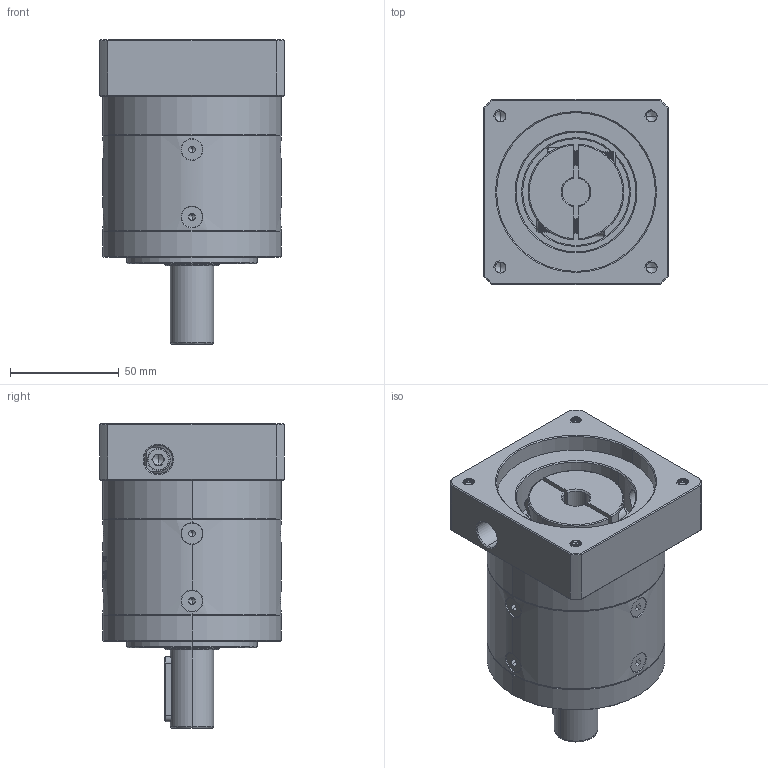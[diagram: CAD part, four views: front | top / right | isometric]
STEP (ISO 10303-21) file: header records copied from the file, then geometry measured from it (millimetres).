
FILE_DESCRIPTION (( 'STEP AP214' ), '1' );
FILE_NAME ('ZE80-D20-L1-12.7-73-69.5X69.5-M6.step', '2022-05-08T05:49:38', ( '' ), ( 'Microsoft' ), 'SwSTEP 2.0', 'SolidWorks 2016', '' );
FILE_SCHEMA (( 'AUTOMOTIVE_DESIGN' ));
Length unit declared in the file: millimetre
Products named in the file (1): ZE80-D20-L1-12.7-73-69.5X69.5-M6
Bounding box: 85 x 85 x 140 mm (x, y, z)
Volume: 518874.6 mm3; surface area: 85667.5 mm2
Topology: 13 solids, 13 shells, 2066 faces, 5388 edges, 3411 vertices
Faces by surface type: plane 891, cylinder 500, bspline 332, cone 326, torus 17
Entity records: 118513 total; most frequent: CARTESIAN_POINT 49425, ORIENTED_EDGE 10700, DIRECTION 8224, EDGE_CURVE 5350, VERTEX_POINT 3411, LINE 2866, VECTOR 2866, AXIS2_PLACEMENT_3D 2679
